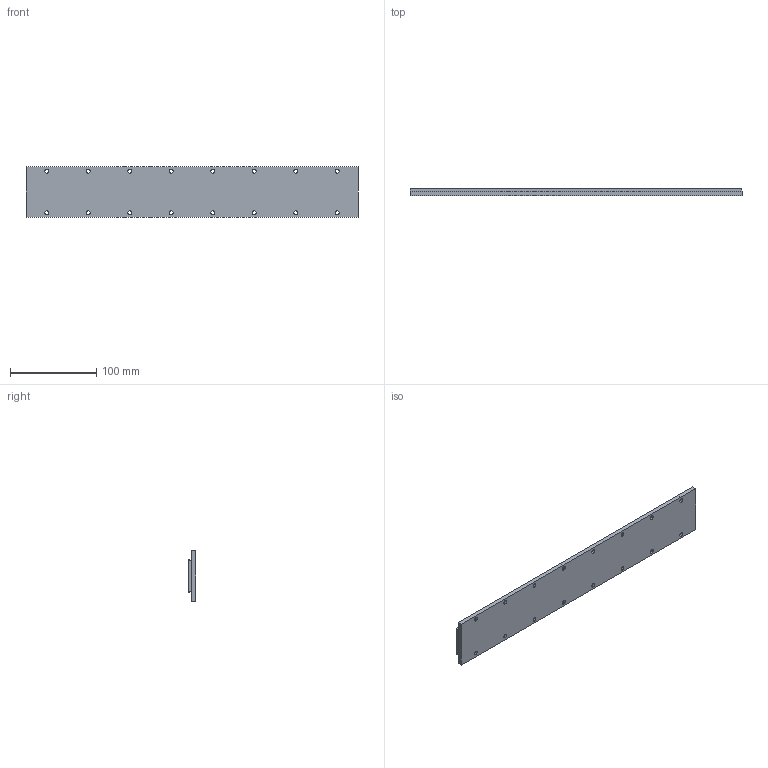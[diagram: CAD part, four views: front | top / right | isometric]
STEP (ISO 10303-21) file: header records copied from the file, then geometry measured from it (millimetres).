
FILE_DESCRIPTION (( 'STEP AP203' ), '1' );
FILE_NAME ('CS384.STEP', '2025-12-28T08:04:08', ( '' ), ( '' ), 'SwSTEP 2.0', 'SolidWorks 2024', '' );
FILE_SCHEMA (( 'CONFIG_CONTROL_DESIGN' ));
Length unit declared in the file: millimetre
Products named in the file (1): CS384
Bounding box: 384 x 8.7 x 58 mm (x, y, z)
Volume: 160185.2 mm3; surface area: 59049.6 mm2
Topology: 1 solids, 1 shells, 133 faces, 320 edges, 208 vertices
Faces by surface type: cylinder 68, plane 53, bspline 12
Entity records: 4267 total; most frequent: CARTESIAN_POINT 970, DIRECTION 676, ORIENTED_EDGE 640, EDGE_CURVE 320, AXIS2_PLACEMENT_3D 258, VERTEX_POINT 208, EDGE_LOOP 184, VECTOR 160
